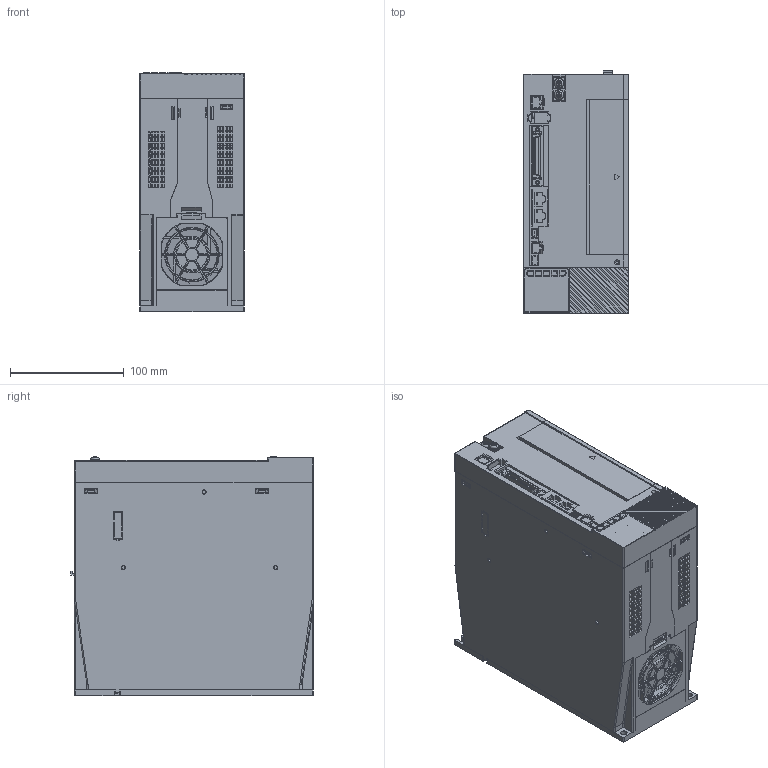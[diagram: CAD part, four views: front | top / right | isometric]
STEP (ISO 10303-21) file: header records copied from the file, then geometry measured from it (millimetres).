
FILE_DESCRIPTION((''),'2;1');
FILE_NAME('REP0002_SW0001','2021-09-03T',('Administrator'),(''),'PRO/ENGINEER BY PARAMETRIC TECHNOLOGY CORPORATION, 2010280','PRO/ENGINEER BY PARAMETRIC TECHNOLOGY CORPORATION, 2010280','');
FILE_SCHEMA(('CONFIG_CONTROL_DESIGN'));
Products named in the file (1): REP0002_SW0001
Bounding box: 92 x 213.3 x 210.3 mm (x, y, z)
Volume: 3506511.6 mm3; surface area: 401665.2 mm2
Topology: 1 solids, 2 shells, 4411 faces, 13566 edges, 8902 vertices
Faces by surface type: plane 3553, cylinder 716, cone 58, torus 39, bspline 24, sphere 21
Entity records: 156079 total; most frequent: CARTESIAN_POINT 32195, ORIENTED_EDGE 27090, DIRECTION 23728, EDGE_CURVE 13545, VECTOR 11690, LINE 11690, VERTEX_POINT 8902, AXIS2_PLACEMENT_3D 6019
